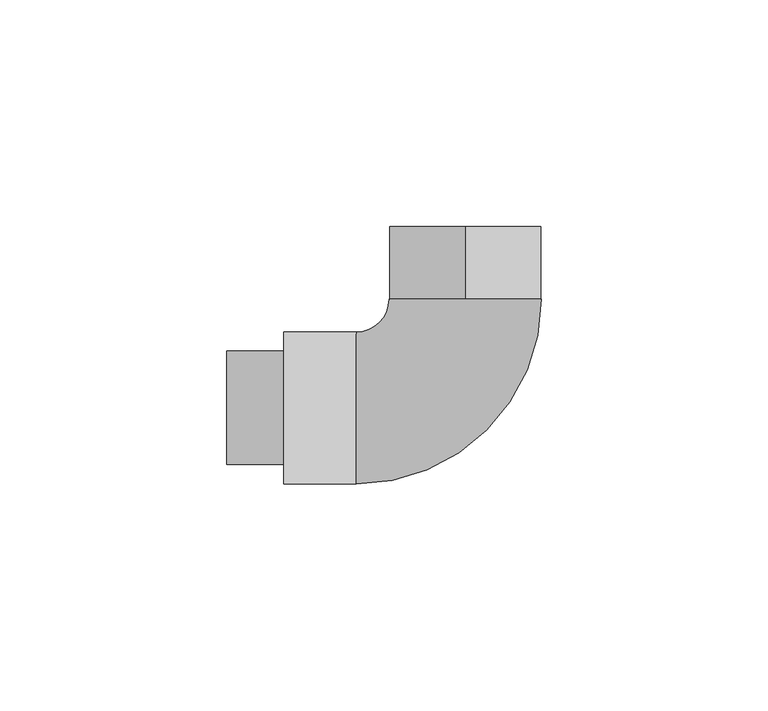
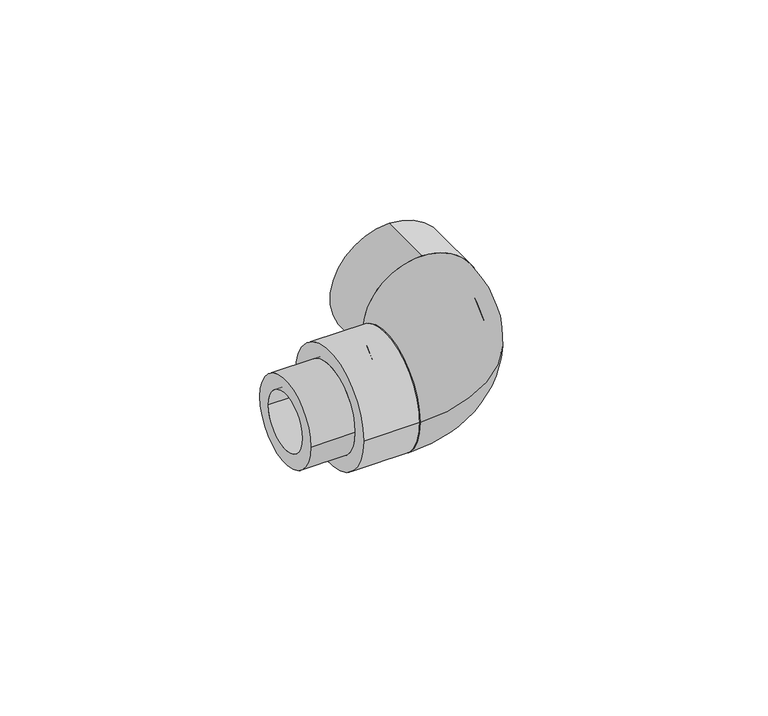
"""IFC4 building model written with IfcOpenShell, lengths in millimetres: pipe fitting geometry, 39_Угольник переходной ВР НР : Белый цвет."""

import ifcopenshell
import ifcopenshell.guid

model = None  # the IFC model being written
_history = None  # IfcOwnerHistory: only IFC2X3 demands one
_inside = {}  # id of a spatial element -> (the spatial element, [elements in it])
_under = {}  # id of a project, library or spatial element -> (it, [spatial elements below it])
_declared = {}  # id of a project -> (the project, [libraries it declares])
_typed = {}  # id of a type object -> (the type object, [elements of that type])
_made_of = {}  # id of a material, layer set ... -> (it, [elements and type objects made of it])


def new_model(schema):
    """Start an empty IFC model of exactly this schema.

    Asked for "IFC4X3", IfcOpenShell would pick the latest addendum, in which some entities
    have other attributes; the version numbers below select the first issue.
    IFC2X3 requires an IfcOwnerHistory on every rooted entity: one is made here for all.
    """
    global model, _history
    if schema == "IFC4X3":
        model = ifcopenshell.file(schema_version=(4, 3, 0, 0))
    else:
        model = ifcopenshell.file(schema=schema)
    _inside.clear()
    _under.clear()
    _declared.clear()
    _typed.clear()
    _made_of.clear()
    _history = None
    if model.schema == "IFC2X3":
        org = make("IfcOrganization", Name="unknown")
        user = make(
            "IfcPersonAndOrganization",
            ThePerson=make("IfcPerson", FamilyName="unknown"),
            TheOrganization=org,
        )
        app = make(
            "IfcApplication",
            ApplicationDeveloper=org,
            Version="unknown",
            ApplicationFullName="unknown",
            ApplicationIdentifier="unknown",
        )
        _history = make(
            "IfcOwnerHistory",
            OwningUser=user,
            OwningApplication=app,
            ChangeAction="ADDED",
            CreationDate=0,
        )
    return model


def make(cls, **values):
    """One entity of the class cls with the attributes given. An attribute that is None is left unset."""
    return model.create_entity(
        cls, **{name: value for name, value in values.items() if value is not None}
    )


def rooted(cls, **values):
    """An entity with a GlobalId (a new one), such as an element, a storey or a relation."""
    return make(cls, GlobalId=ifcopenshell.guid.new(), OwnerHistory=_history, **values)


def si_unit(unit_type, name, prefix=None):
    """IfcSIUnit, for example si_unit("LENGTHUNIT", "METRE", prefix="MILLI")."""
    return make("IfcSIUnit", UnitType=unit_type, Prefix=prefix, Name=name)


def assignment(units):
    """IfcUnitAssignment: the units of a project."""
    return None if units is None else make("IfcUnitAssignment", Units=units)


def point(xyz):
    """IfcCartesianPoint."""
    return None if xyz is None else make("IfcCartesianPoint", Coordinates=xyz)


def direction(xyz):
    """IfcDirection."""
    return None if xyz is None else make("IfcDirection", DirectionRatios=xyz)


def frame(location, z_axis=None, x_axis=None):
    """IfcAxis2Placement3D, a coordinate frame: its origin and axes. An axis left out is left unset."""
    return make(
        "IfcAxis2Placement3D",
        Location=point(location),
        Axis=direction(z_axis),
        RefDirection=direction(x_axis),
    )


def frame_2d(location, x_axis=None):
    """IfcAxis2Placement2D, a coordinate frame in the plane: its origin and x axis."""
    return make(
        "IfcAxis2Placement2D", Location=point(location), RefDirection=direction(x_axis)
    )


def origin():
    """The frame at (0, 0, 0) with its axes left unset."""
    return frame((0.0, 0.0, 0.0))


def place(relative_to, where):
    """IfcLocalPlacement: puts the frame where relative to a parent placement (None: the world)."""
    return make(
        "IfcLocalPlacement", PlacementRelTo=relative_to, RelativePlacement=where
    )


def context(
    kind, dimensions, precision=None, world=None, true_north=None, identifier=None
):
    """IfcGeometricRepresentationContext, for example the 3D "Model" context."""
    return make(
        "IfcGeometricRepresentationContext",
        ContextIdentifier=identifier,
        ContextType=kind,
        CoordinateSpaceDimension=dimensions,
        Precision=precision,
        WorldCoordinateSystem=world,
        TrueNorth=true_north,
    )


def project(units=None, contexts=None):
    """IfcProject with its units and contexts."""
    return rooted(
        "IfcProject",
        Name="project",
        RepresentationContexts=contexts,
        UnitsInContext=assignment(units),
    )


def spatial(cls, under=None, at=None, **own):
    """A site, building, storey or space (cls), placed at a placement, below another one or the project."""
    s = rooted(cls, ObjectPlacement=at, **own)
    if under is not None:
        _under.setdefault(under.id(), (under, []))[1].append(s)
    return s


def circle_curve(where, radius):
    """IfcCircle in the frame where."""
    return make("IfcCircle", Position=where, Radius=radius)


def ellipse_curve(where, semi_axis1, semi_axis2):
    """IfcEllipse in the frame where."""
    return make(
        "IfcEllipse", Position=where, SemiAxis1=semi_axis1, SemiAxis2=semi_axis2
    )


def trimmed(basis, trim1, trim2, sense, master):
    """IfcTrimmedCurve: the piece of a basis curve between two trims."""
    return make(
        "IfcTrimmedCurve",
        BasisCurve=basis,
        Trim1=trim1,
        Trim2=trim2,
        SenseAgreement=sense,
        MasterRepresentation=master,
    )


def segment(curve, same_sense, transition):
    """IfcCompositeCurveSegment."""
    return make(
        "IfcCompositeCurveSegment",
        Transition=transition,
        SameSense=same_sense,
        ParentCurve=curve,
    )


def composite_curve(segments, self_intersect=None):
    """IfcCompositeCurve: segments joined end to end."""
    return make("IfcCompositeCurve", Segments=segments, SelfIntersect=self_intersect)


def outline(outer, holes=None, kind="AREA"):
    """IfcArbitraryClosedProfileDef: a profile drawn as a closed curve; with holes, ...WithVoids."""
    if holes is None:
        return make("IfcArbitraryClosedProfileDef", ProfileType=kind, OuterCurve=outer)
    return make(
        "IfcArbitraryProfileDefWithVoids",
        ProfileType=kind,
        OuterCurve=outer,
        InnerCurves=holes,
    )


def extrude(swept, where, along, depth):
    """IfcExtrudedAreaSolid: the profile swept, set in the frame where, extruded along a direction by depth."""
    return make(
        "IfcExtrudedAreaSolid",
        SweptArea=swept,
        Position=where,
        ExtrudedDirection=direction(along),
        Depth=depth,
    )


def shape(context_of_items, identifier, shape_type, items):
    """IfcShapeRepresentation: the items that make up one representation, for example the "Body"."""
    return make(
        "IfcShapeRepresentation",
        ContextOfItems=context_of_items,
        RepresentationIdentifier=identifier,
        RepresentationType=shape_type,
        Items=items,
    )


def source(mapping_origin, context_of_items, identifier, shape_type, items):
    """IfcRepresentationMap: a shape defined once, which mapped items show again and again."""
    return make(
        "IfcRepresentationMap",
        MappingOrigin=mapping_origin,
        MappedRepresentation=shape(context_of_items, identifier, shape_type, items),
    )


def transform(
    local_origin,
    x_axis=None,
    y_axis=None,
    z_axis=None,
    scale=None,
    scale2=None,
    scale3=None,
    uniform=True,
):
    """IfcCartesianTransformationOperator3D, or its non-uniform kind. x_axis, y_axis, z_axis: its Axis1, 2, 3."""
    if uniform:
        return make(
            "IfcCartesianTransformationOperator3D",
            Axis1=direction(x_axis),
            Axis2=direction(y_axis),
            LocalOrigin=point(local_origin),
            Scale=scale,
            Axis3=direction(z_axis),
        )
    return make(
        "IfcCartesianTransformationOperator3DnonUniform",
        Axis1=direction(x_axis),
        Axis2=direction(y_axis),
        LocalOrigin=point(local_origin),
        Scale=scale,
        Axis3=direction(z_axis),
        Scale2=scale2,
        Scale3=scale3,
    )


def mapped(mapping_source, mapping_target):
    """IfcMappedItem: shows the shape of a source again, moved by a transform."""
    return make(
        "IfcMappedItem", MappingSource=mapping_source, MappingTarget=mapping_target
    )


def made_of(thing, what):
    """Note that an element or type object is made of a material, layer set ...; save() writes the relation."""
    if what is not None:
        _made_of.setdefault(what.id(), (what, []))[1].append(thing)
    return thing


def element(
    cls,
    number,
    at=None,
    inside=None,
    cuts=None,
    type_object=None,
    material=None,
    context=None,
    identifier="Body",
    shape_type=None,
    held_by="IfcProductDefinitionShape",
    body=None,
    shapes=None,
    **own,
):
    """One element of the class cls, such as IfcWall. Its Tag is "e" and its number.

    at: its placement. inside: the storey or other place that contains it. cuts: it is an
    opening in that element (IfcRelVoidsElement). A single representation is given by context,
    identifier, shape_type and body (its items); several are given by shapes. held_by: the class
    of the entity that holds the representations. save() writes the other relations.
    """
    e = rooted(cls, Tag="e%d" % number, ObjectPlacement=at, **own)
    if body is not None:
        shapes = [shape(context, identifier, shape_type, body)]
    if shapes is not None:
        e.Representation = make(held_by, Representations=shapes)
    if inside is not None:
        _inside.setdefault(inside.id(), (inside, []))[1].append(e)
    if cuts is not None:
        rooted(
            "IfcRelVoidsElement", RelatingBuildingElement=cuts, RelatedOpeningElement=e
        )
    if type_object is not None:
        _typed.setdefault(type_object.id(), (type_object, []))[1].append(e)
    return made_of(e, material)


def aggregate(whole, parts):
    """IfcRelAggregates: a whole, such as a stair, and the parts it consists of."""
    return rooted("IfcRelAggregates", RelatingObject=whole, RelatedObjects=parts)


def save(model, path):
    """Write the relations noted so far, then the file.

    IfcRelAggregates (storeys below a building ...), IfcRelContainedInSpatialStructure (elements
    in a storey), IfcRelDefinesByType, IfcRelAssociatesMaterial and IfcRelDeclares: one each for
    every whole, place, type object, material and project.
    """
    for whole, parts in _under.values():
        aggregate(whole, parts)
    for where, things in _inside.values():
        rooted(
            "IfcRelContainedInSpatialStructure",
            RelatedElements=things,
            RelatingStructure=where,
        )
    for kind, things in _typed.values():
        rooted("IfcRelDefinesByType", RelatedObjects=things, RelatingType=kind)
    for what, things in _made_of.values():
        rooted("IfcRelAssociatesMaterial", RelatedObjects=things, RelatingMaterial=what)
    for by, libraries in _declared.values():
        rooted("IfcRelDeclares", RelatingContext=by, RelatedDefinitions=libraries)
    model.write(path)


def plane_surface(at):
    """IfcPlane: the flat surface through the origin of the frame at, square to its z axis."""
    return make("IfcPlane", Position=at)


def revolved_surface(curve, axis_point, axis_direction):
    """IfcSurfaceOfRevolution: the curve turned about the line through axis_point along axis_direction."""
    return make(
        "IfcSurfaceOfRevolution",
        SweptCurve=make("IfcArbitraryOpenProfileDef", ProfileType="CURVE", Curve=curve),
        AxisPosition=make("IfcAxis1Placement", Location=point(axis_point), Axis=direction(axis_direction)),
    )


def advanced_brep(points, edges, surfaces, faces):
    """IfcAdvancedBrep: a solid bounded by faces that lie on surfaces and meet in shared edges.

    An edge is (start, end): straight between two places in points (the first is 0);
    or (start, end, curve); or (start, end, curve, False) where it runs against its curve.
    A face is (place in surfaces, loops), or (place, loops, False) where it looks against
    its surface's normal. A loop lists edges by number (the first is 1), with a minus sign
    where the edge is run from its end to its start. The first loop is the outer one.
    """
    corners = [point(p) for p in points]
    vertices = [make("IfcVertexPoint", VertexGeometry=c) for c in corners]
    made = []
    for start, end, *more in edges:
        made.append(
            make(
                "IfcEdgeCurve",
                EdgeStart=vertices[start],
                EdgeEnd=vertices[end],
                EdgeGeometry=more[0] if more else make("IfcPolyline", Points=[corners[start], corners[end]]),
                SameSense=more[1] if len(more) > 1 else True,
            )
        )
    hull = []
    for where, loops, *sense in faces:
        bounds = []
        for j, loop in enumerate(loops):
            ring = [make("IfcOrientedEdge", EdgeElement=made[abs(k) - 1], Orientation=k > 0) for k in loop]
            bounds.append(
                make(
                    "IfcFaceOuterBound" if j == 0 else "IfcFaceBound",
                    Bound=make("IfcEdgeLoop", EdgeList=ring),
                    Orientation=True,
                )
            )
        hull.append(make("IfcAdvancedFace", Bounds=bounds, FaceSurface=surfaces[where], SameSense=sense[0] if sense else True))
    return make("IfcAdvancedBrep", Outer=make("IfcClosedShell", CfsFaces=hull))


def pipe_fitting_843034e9(model_context):
    return source(origin(), model_context, "Body", "SolidModel", [
        extrude(outline(composite_curve([segment(trimmed(circle_curve(frame_2d((0.05, 0.0)), 12.5), [point((-12.45, 0.0))], [point((12.55, 0.0))], False, "CARTESIAN"), True, "CONTINUOUS"), segment(trimmed(circle_curve(frame_2d((0.05, 0.0)), 12.5), [point((12.55, 0.0))], [point((-12.45, 0.0))], False, "CARTESIAN"), True, "CONTINUOUS")], self_intersect=False), holes=[composite_curve([segment(trimmed(circle_curve(frame_2d((0.05, 0.0)), 8.3), [point((-8.25, 0.0))], [point((8.35, 0.0))], True, "CARTESIAN"), True, "CONTINUOUS"), segment(trimmed(circle_curve(frame_2d((0.05, 0.0)), 8.3), [point((8.35, 0.0))], [point((-8.25, 0.0))], True, "CARTESIAN"), True, "CONTINUOUS")], self_intersect=False)]), frame((-48.85, 0.0, 0.0), z_axis=(1.0, 0.0, 0.0), x_axis=(0.0, 1.0, 0.0)), (0.0, 0.0, 1.0), 12.5),
        advanced_brep(
        [(-13.1, 24.0, 0.0), (20.4, 24.0, 0.0), (-8.85, 24.0, 0.0), (16.15, 24.0, 0.0), (-20.35, 16.75, 0.0), (-20.35, -16.75, 0.0), (-20.35, 12.5, 0.0), (-20.35, -12.5, 0.0)],
        [
            (0, 1, circle_curve(frame((3.65, 24.0, 0.0), z_axis=(0.0, 1.0, 0.0), x_axis=(1.0, 0.0, 0.0)), 16.75)),
            (1, 0, circle_curve(frame((3.65, 24.0, 0.0), z_axis=(0.0, 1.0, 0.0), x_axis=(1.0, 0.0, 0.0)), 16.75)),
            (2, 3, circle_curve(frame((3.65, 24.0, 0.0), z_axis=(0.0, -1.0, 0.0), x_axis=(1.0, 0.0, 0.0)), 12.5)),
            (3, 2, circle_curve(frame((3.65, 24.0, 0.0), z_axis=(0.0, -1.0, 0.0), x_axis=(1.0, 0.0, 0.0)), 12.5)),
            (4, 5, circle_curve(frame((-20.35, 0.0, 0.0), z_axis=(-1.0, 0.0, 0.0), x_axis=(0.0, -1.0, 0.0)), 16.75)),
            (5, 4, circle_curve(frame((-20.35, 0.0, 0.0), z_axis=(-1.0, 0.0, 0.0), x_axis=(0.0, -1.0, 0.0)), 16.75)),
            (6, 7, circle_curve(frame((-20.35, 0.0, 0.0), z_axis=(1.0, 0.0, 0.0), x_axis=(0.0, -1.0, 0.0)), 12.5)),
            (7, 6, circle_curve(frame((-20.35, 0.0, 0.0), z_axis=(1.0, 0.0, 0.0), x_axis=(0.0, -1.0, 0.0)), 12.5)),
            (5, 1, circle_curve(frame((-20.35, 24.0, 0.0), z_axis=(0.0, 0.0, 1.0), x_axis=(1.0, 0.0, 0.0)), 40.75)),
            (0, 4, circle_curve(frame((-20.35, 24.0, 0.0), z_axis=(0.0, 0.0, -1.0), x_axis=(1.0, 0.0, 0.0)), 7.25)),
            (7, 3, circle_curve(frame((-20.35, 24.0, 0.0), z_axis=(0.0, 0.0, 1.0), x_axis=(1.0, 0.0, 0.0)), 36.5)),
            (2, 6, circle_curve(frame((-20.35, 24.0, 0.0), z_axis=(0.0, 0.0, -1.0), x_axis=(1.0, 0.0, 0.0)), 11.5)),
        ],
        [
            plane_surface(frame((3.65, 24.0, 0.0), z_axis=(0.0, 1.0, 0.0), x_axis=(0.0, 0.0, 1.0))),
            plane_surface(frame((-20.35, 0.0, 0.0), z_axis=(-1.0, 0.0, 0.0), x_axis=(0.0, 0.0, 1.0))),
            revolved_surface(trimmed(ellipse_curve(frame((3.65, 24.0, 0.0), z_axis=(0.0, 1.0, 0.0), x_axis=(1.0, 0.0, 0.0)), 16.75, 16.75), [point((-13.1, 24.0, 0.0))], [point((20.4, 24.0, 0.0))], True, "CARTESIAN"), (-20.35, 24.0, 0.0), (0.0, 0.0, -1.0)),
            revolved_surface(trimmed(ellipse_curve(frame((3.65, 24.0, 0.0), z_axis=(0.0, 1.0, 0.0), x_axis=(1.0, 0.0, 0.0)), 16.75, 16.75), [point((20.4, 24.0, 0.0))], [point((-13.1, 24.0, 0.0))], True, "CARTESIAN"), (-20.35, 24.0, 0.0), (0.0, 0.0, -1.0)),
            revolved_surface(trimmed(ellipse_curve(frame((3.65, 24.0, 0.0), z_axis=(0.0, -1.0, 0.0), x_axis=(1.0, 0.0, 0.0)), 12.5, 12.5), [point((-8.85, 24.0, 0.0))], [point((16.15, 24.0, 0.0))], True, "CARTESIAN"), (-20.35, 24.0, 0.0), (0.0, 0.0, -1.0)),
            revolved_surface(trimmed(ellipse_curve(frame((3.65, 24.0, 0.0), z_axis=(0.0, -1.0, 0.0), x_axis=(1.0, 0.0, 0.0)), 12.5, 12.5), [point((16.15, 24.0, 0.0))], [point((-8.85, 24.0, 0.0))], True, "CARTESIAN"), (-20.35, 24.0, 0.0), (0.0, 0.0, -1.0)),
        ],
        [
            (0, [[1, 2], [3, 4]]),
            (1, [[5, 6], [7, 8]]),
            (2, [[9, -1, 10, -6]]),
            (3, [[-10, -2, -9, -5]]),
            (4, [[11, -3, 12, -8]]),
            (5, [[-12, -4, -11, -7]]),
        ],
    ),
        extrude(outline(composite_curve([segment(trimmed(circle_curve(frame_2d((0.0, 3.65)), 16.75), [point((-16.75, 3.65))], [point((16.75, 3.65))], False, "CARTESIAN"), True, "CONTINUOUS"), segment(trimmed(circle_curve(frame_2d((0.0, 3.65)), 16.75), [point((16.75, 3.65))], [point((-16.75, 3.65))], False, "CARTESIAN"), True, "CONTINUOUS")], self_intersect=False), holes=[composite_curve([segment(trimmed(circle_curve(frame_2d((0.0, 3.65)), 12.5), [point((-12.5, 3.65))], [point((12.5, 3.65))], True, "CARTESIAN"), True, "CONTINUOUS"), segment(trimmed(circle_curve(frame_2d((0.0, 3.65)), 12.5), [point((12.5, 3.65))], [point((-12.5, 3.65))], True, "CARTESIAN"), True, "CONTINUOUS")], self_intersect=False)]), frame((0.0, 24.0, 0.0), z_axis=(0.0, 1.0, 0.0), x_axis=(0.0, 0.0, 1.0)), (0.0, 0.0, 1.0), 16.0),
        extrude(outline(composite_curve([segment(trimmed(circle_curve(frame_2d((0.05, 0.0)), 16.75), [point((-16.7, 0.0))], [point((16.8, 0.0))], False, "CARTESIAN"), True, "CONTINUOUS"), segment(trimmed(circle_curve(frame_2d((0.05, 0.0)), 16.75), [point((16.8, 0.0))], [point((-16.7, 0.0))], False, "CARTESIAN"), True, "CONTINUOUS")], self_intersect=False), holes=[composite_curve([segment(trimmed(circle_curve(frame_2d((0.05, 0.0)), 12.5), [point((-12.45, 0.0))], [point((12.55, 0.0))], True, "CARTESIAN"), True, "CONTINUOUS"), segment(trimmed(circle_curve(frame_2d((0.05, 0.0)), 12.5), [point((12.55, 0.0))], [point((-12.45, 0.0))], True, "CARTESIAN"), True, "CONTINUOUS")], self_intersect=False)]), frame((-36.35, 0.0, 0.0), z_axis=(1.0, 0.0, 0.0), x_axis=(0.0, 1.0, 0.0)), (0.0, 0.0, 1.0), 16.0),
    ])


if __name__ == "__main__":
    model = new_model("IFC4")
    model_context = context("Model", 3, world=origin())
    ifc_project = project(units=[si_unit("LENGTHUNIT", "METRE", prefix="MILLI")], contexts=[model_context])
    site = spatial("IfcSite", under=ifc_project)
    building = spatial("IfcBuilding", under=site)
    placement = place(None, origin())
    pipe_fitting_shape = pipe_fitting_843034e9(model_context)
    element("IfcPipeFitting", 1, ObjectType="39_Угольник переходной ВР НР : Белый цвет", at=placement, inside=building, context=model_context, shape_type="MappedRepresentation", body=[
        mapped(pipe_fitting_shape, transform((0.0, 0.0, 0.0), x_axis=(1.0, 0.0, 0.0), y_axis=(0.0, 1.0, 0.0), z_axis=(0.0, 0.0, 1.0))),
    ])
    save(model, "model.ifc")
